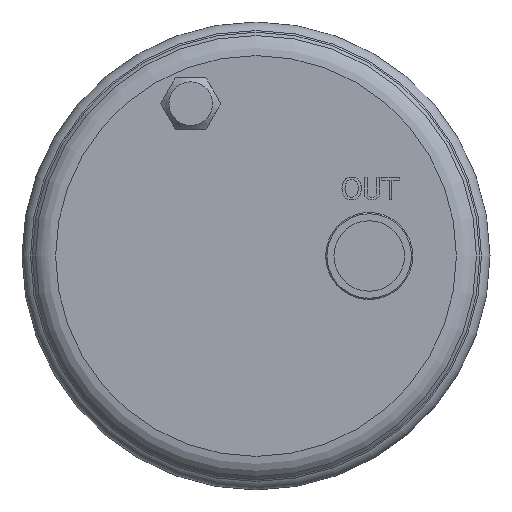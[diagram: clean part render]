
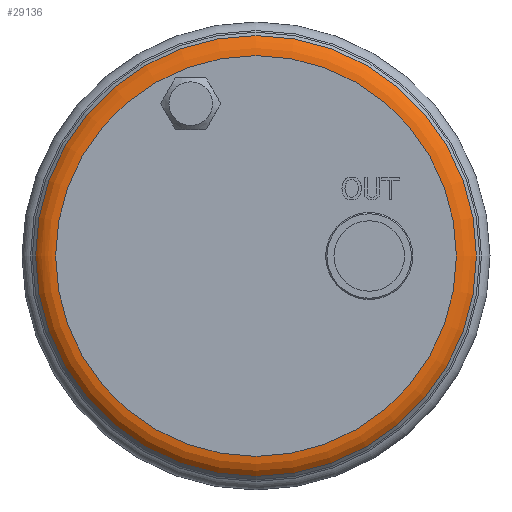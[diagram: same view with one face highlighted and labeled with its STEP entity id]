
A CAD part, front view. The second image highlights one B-rep face of the part: STEP entity #29136.
In plain terms, the highlighted toroidal (fillet/blend) face has major radius 46.035 mm and minor radius 6 mm.
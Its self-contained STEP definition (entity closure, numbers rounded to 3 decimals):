
#97=TOROIDAL_SURFACE('',#31128,46.035,6.);
#673=CIRCLE('',#29228,46.035);
#1206=CIRCLE('',#31129,50.629);
#6194=FACE_BOUND('',#9568,.T.);
#7795=FACE_OUTER_BOUND('',#9567,.T.);
#9567=EDGE_LOOP('',(#26496));
#9568=EDGE_LOOP('',(#26497));
#10931=VERTEX_POINT('',#38023);
#13679=VERTEX_POINT('',#62006);
#13864=EDGE_CURVE('',#10931,#10931,#673,.T.);
#17980=EDGE_CURVE('',#13679,#13679,#1206,.T.);
#26496=ORIENTED_EDGE('',*,*,#13864,.F.);
#26497=ORIENTED_EDGE('',*,*,#17980,.T.);
#29136=ADVANCED_FACE('',(#7795,#6194),#97,.T.);
#29228=AXIS2_PLACEMENT_3D('',#38024,#31357,#31358);
#31128=AXIS2_PLACEMENT_3D('',#62005,#37183,#37184);
#31129=AXIS2_PLACEMENT_3D('',#62007,#37185,#37186);
#31357=DIRECTION('center_axis',(0.,-1.,0.));
#31358=DIRECTION('ref_axis',(-1.,0.,0.));
#37183=DIRECTION('center_axis',(0.,-1.,0.));
#37184=DIRECTION('ref_axis',(0.,0.,-1.));
#37185=DIRECTION('center_axis',(0.,-1.,0.));
#37186=DIRECTION('ref_axis',(-1.,0.,0.));
#38023=CARTESIAN_POINT('',(-46.038,-81.536,0.));
#38024=CARTESIAN_POINT('Origin',(-0.003,-81.536,
0.));
#62005=CARTESIAN_POINT('Origin',(-0.003,-75.536,
0.));
#62006=CARTESIAN_POINT('',(-50.632,-79.395,0.));
#62007=CARTESIAN_POINT('Origin',(-0.003,-79.395,
0.));
